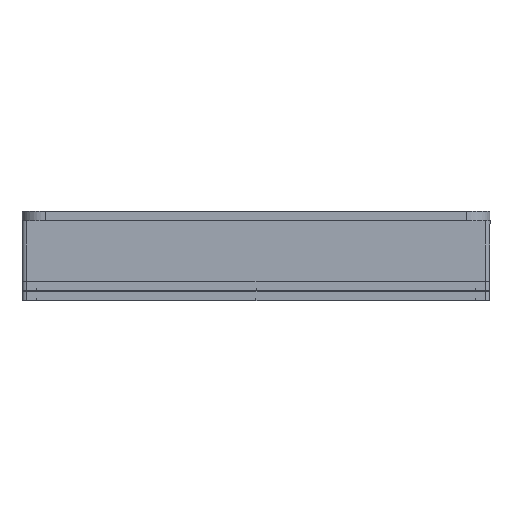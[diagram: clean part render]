
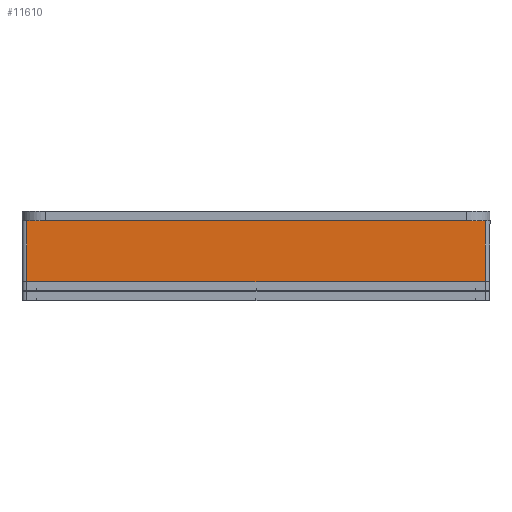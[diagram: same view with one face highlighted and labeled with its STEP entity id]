
A CAD part, left-side view. The second image highlights one B-rep face of the part: STEP entity #11610.
In plain terms, the highlighted planar face has unit normal (-1, 0, 0).
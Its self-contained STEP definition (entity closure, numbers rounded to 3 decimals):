
#109 = CARTESIAN_POINT ( 'NONE',  ( -80., 49., 13. ) ) ;
#1039 = VECTOR ( 'NONE', #6228, 1000. ) ;
#1570 = CARTESIAN_POINT ( 'NONE',  ( -80., 49., 13. ) ) ;
#1755 = LINE ( 'NONE', #1570, #1039 ) ;
#2382 = CARTESIAN_POINT ( 'NONE',  ( -80., -49., 13. ) ) ;
#2691 = VECTOR ( 'NONE', #17063, 1000. ) ;
#4112 = EDGE_CURVE ( 'NONE', #26059, #26507, #26866, .T. ) ;
#4188 = DIRECTION ( 'NONE',  ( 1., 0., 0. ) ) ;
#4424 = EDGE_LOOP ( 'NONE', ( #17555, #19021, #15807, #13426 ) ) ;
#5001 = FACE_OUTER_BOUND ( 'NONE', #4424, .T. ) ;
#6228 = DIRECTION ( 'NONE',  ( 0., -1., 0. ) ) ;
#9204 = CARTESIAN_POINT ( 'NONE',  ( -80., -49., 13. ) ) ;
#9223 = EDGE_CURVE ( 'NONE', #16997, #26507, #27333, .T. ) ;
#9368 = DIRECTION ( 'NONE',  ( 0., 0., -1. ) ) ;
#11544 = EDGE_CURVE ( 'NONE', #17408, #26059, #1755, .T. ) ;
#11610 = ADVANCED_FACE ( 'NONE', ( #5001 ), #18043, .F. ) ;
#13426 = ORIENTED_EDGE ( 'NONE', *, *, #29278, .T. ) ;
#14634 = CARTESIAN_POINT ( 'NONE',  ( -80., 49., 0. ) ) ;
#15138 = AXIS2_PLACEMENT_3D ( 'NONE', #20253, #4188, #20359 ) ;
#15807 = ORIENTED_EDGE ( 'NONE', *, *, #11544, .F. ) ;
#16157 = DIRECTION ( 'NONE',  ( 0., 0., -1. ) ) ;
#16997 = VERTEX_POINT ( 'NONE', #14634 ) ;
#17063 = DIRECTION ( 'NONE',  ( 0., -1., 0. ) ) ;
#17408 = VERTEX_POINT ( 'NONE', #23120 ) ;
#17555 = ORIENTED_EDGE ( 'NONE', *, *, #9223, .T. ) ;
#18043 = PLANE ( 'NONE',  #15138 ) ;
#19021 = ORIENTED_EDGE ( 'NONE', *, *, #4112, .F. ) ;
#20253 = CARTESIAN_POINT ( 'NONE',  ( -80., 49., 13. ) ) ;
#20359 = DIRECTION ( 'NONE',  ( 0., 0., -1. ) ) ;
#20698 = VECTOR ( 'NONE', #9368, 1000. ) ;
#21561 = LINE ( 'NONE', #109, #27726 ) ;
#22513 = CARTESIAN_POINT ( 'NONE',  ( -80., -49., 0. ) ) ;
#23120 = CARTESIAN_POINT ( 'NONE',  ( -80., 49., 13. ) ) ;
#26059 = VERTEX_POINT ( 'NONE', #9204 ) ;
#26507 = VERTEX_POINT ( 'NONE', #22513 ) ;
#26866 = LINE ( 'NONE', #2382, #20698 ) ;
#27333 = LINE ( 'NONE', #28597, #2691 ) ;
#27726 = VECTOR ( 'NONE', #16157, 1000. ) ;
#28597 = CARTESIAN_POINT ( 'NONE',  ( -80., 49., 0. ) ) ;
#29278 = EDGE_CURVE ( 'NONE', #17408, #16997, #21561, .T. ) ;
